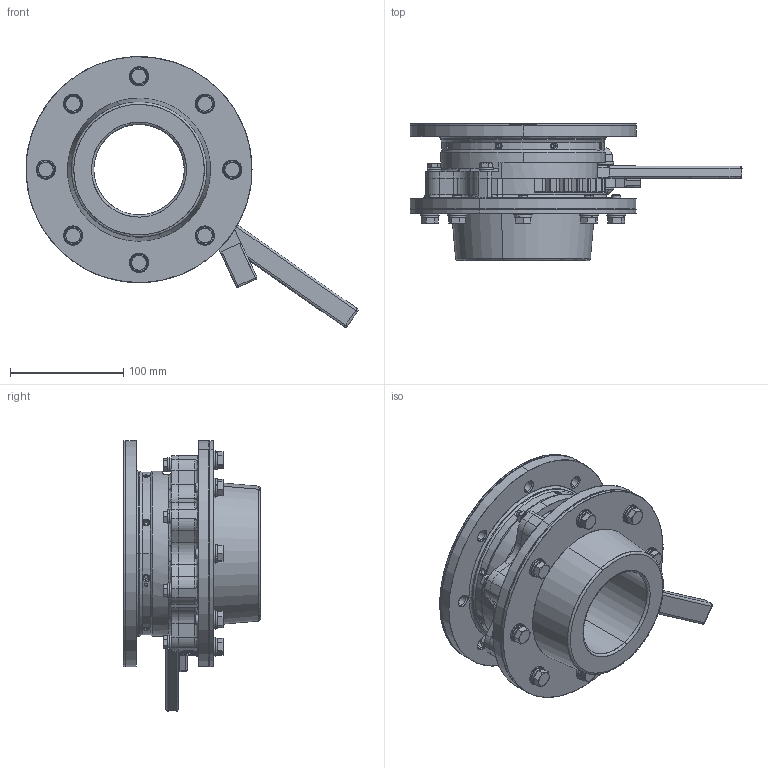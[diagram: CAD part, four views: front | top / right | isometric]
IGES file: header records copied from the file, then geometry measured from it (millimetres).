
Start section: SolidWorks IGES file using analytic representation for surfaces
Global section: file name: V:\WORK\08133\HP 寸法図\EIV\HP_N780000-000_defeature.IGS,15; native system: HSolidWorks 2022; preprocessor: SolidWorks 2022; author: n-udagawa; date: 240827.151346; units: millimetre
Bounding box: 293.76 x 121.29 x 239.61 mm (x, y, z)
Surface area: 196380.7 mm2 (no closed solid volume)
Topology: 0 solids, 0 shells, 937 faces, 14088 edges, 14075 vertices
Faces by surface type: revolution 491, bspline 446
